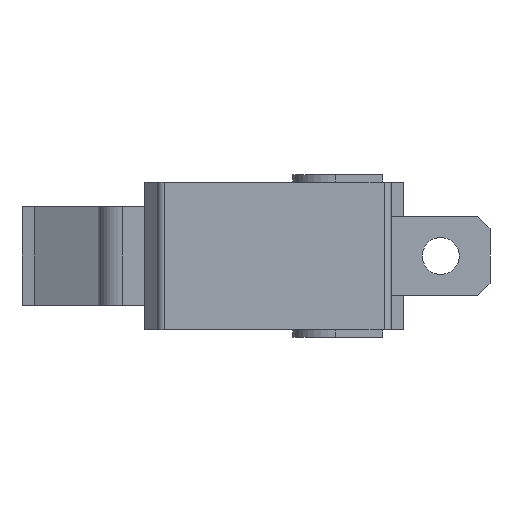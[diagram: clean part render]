
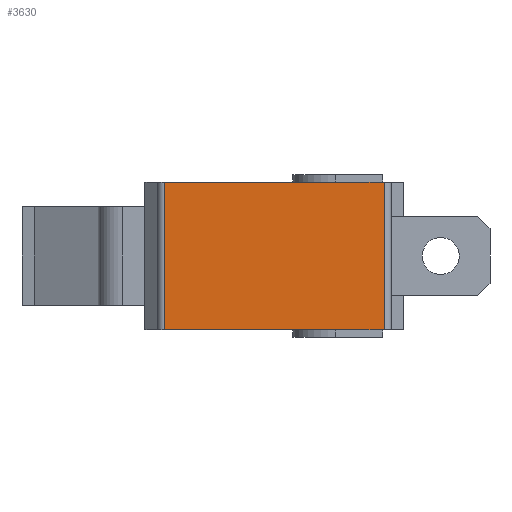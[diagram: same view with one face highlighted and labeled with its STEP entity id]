
A CAD part, left-side view. The second image highlights one B-rep face of the part: STEP entity #3630.
In plain terms, the highlighted planar face has unit normal (-1, 0, 0).
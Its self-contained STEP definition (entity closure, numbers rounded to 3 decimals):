
#66 = CARTESIAN_POINT ( 'NONE',  ( -10., 4.45, 3. ) ) ;
#111 = DIRECTION ( 'NONE',  ( 0., 0., -1. ) ) ;
#247 = ORIENTED_EDGE ( 'NONE', *, *, #2148, .T. ) ;
#301 = AXIS2_PLACEMENT_3D ( 'NONE', #3606, #2415, #2721 ) ;
#913 = CARTESIAN_POINT ( 'NONE',  ( -10., -4.45, 3. ) ) ;
#987 = ORIENTED_EDGE ( 'NONE', *, *, #2687, .T. ) ;
#1185 = FACE_OUTER_BOUND ( 'NONE', #2600, .T. ) ;
#1208 = PLANE ( 'NONE',  #301 ) ;
#1219 = ORIENTED_EDGE ( 'NONE', *, *, #2222, .T. ) ;
#1317 = VECTOR ( 'NONE', #2204, 1000. ) ;
#1415 = DIRECTION ( 'NONE',  ( 0., 0., 1. ) ) ;
#1447 = LINE ( 'NONE', #2927, #1986 ) ;
#1660 = VECTOR ( 'NONE', #1415, 1000. ) ;
#1858 = LINE ( 'NONE', #66, #2695 ) ;
#1986 = VECTOR ( 'NONE', #3212, 1000. ) ;
#2024 = CARTESIAN_POINT ( 'NONE',  ( -10., 5.25, -3. ) ) ;
#2148 = EDGE_CURVE ( 'NONE', #2612, #3445, #3272, .T. ) ;
#2204 = DIRECTION ( 'NONE',  ( 0., -1., 0. ) ) ;
#2222 = EDGE_CURVE ( 'NONE', #3664, #2268, #1858, .T. ) ;
#2268 = VERTEX_POINT ( 'NONE', #3243 ) ;
#2415 = DIRECTION ( 'NONE',  ( 1., 0., 0. ) ) ;
#2600 = EDGE_LOOP ( 'NONE', ( #987, #247, #3055, #1219 ) ) ;
#2612 = VERTEX_POINT ( 'NONE', #3001 ) ;
#2687 = EDGE_CURVE ( 'NONE', #2268, #2612, #3687, .T. ) ;
#2695 = VECTOR ( 'NONE', #111, 1000. ) ;
#2721 = DIRECTION ( 'NONE',  ( 0., 1., 0. ) ) ;
#2927 = CARTESIAN_POINT ( 'NONE',  ( -10., 5.25, 3. ) ) ;
#3001 = CARTESIAN_POINT ( 'NONE',  ( -10., -4.45, -3. ) ) ;
#3055 = ORIENTED_EDGE ( 'NONE', *, *, #3375, .F. ) ;
#3212 = DIRECTION ( 'NONE',  ( 0., -1., 0. ) ) ;
#3243 = CARTESIAN_POINT ( 'NONE',  ( -10., 4.45, -3. ) ) ;
#3272 = LINE ( 'NONE', #913, #1660 ) ;
#3375 = EDGE_CURVE ( 'NONE', #3664, #3445, #1447, .T. ) ;
#3387 = CARTESIAN_POINT ( 'NONE',  ( -10., -4.45, 3. ) ) ;
#3445 = VERTEX_POINT ( 'NONE', #3387 ) ;
#3606 = CARTESIAN_POINT ( 'NONE',  ( -10., 5.25, 3. ) ) ;
#3630 = ADVANCED_FACE ( 'NONE', ( #1185 ), #1208, .F. ) ;
#3662 = CARTESIAN_POINT ( 'NONE',  ( -10., 4.45, 3. ) ) ;
#3664 = VERTEX_POINT ( 'NONE', #3662 ) ;
#3687 = LINE ( 'NONE', #2024, #1317 ) ;
